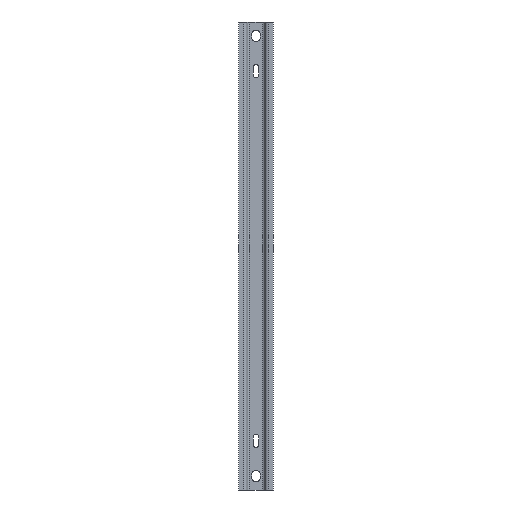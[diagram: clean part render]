
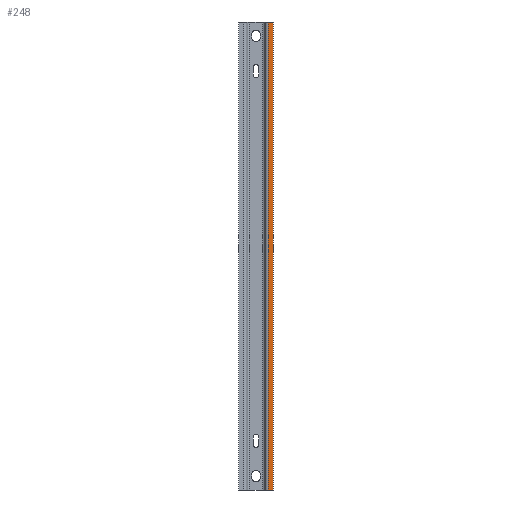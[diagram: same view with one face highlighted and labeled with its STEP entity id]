
A CAD part, front view. The second image highlights one B-rep face of the part: STEP entity #248.
In plain terms, the highlighted planar face has unit normal (0, -1, 0).
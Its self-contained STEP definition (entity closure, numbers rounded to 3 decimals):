
#12 = CARTESIAN_POINT ( 'NONE',  ( 18.114, -11., 0. ) ) ;
#120 = CARTESIAN_POINT ( 'NONE',  ( 18.114, -11., 700. ) ) ;
#198 = EDGE_CURVE ( 'NONE', #937, #1118, #1561, .T. ) ;
#242 = CARTESIAN_POINT ( 'NONE',  ( 16., -11., 700. ) ) ;
#248 = ADVANCED_FACE ( 'NONE', ( #393 ), #856, .F. ) ;
#337 = VERTEX_POINT ( 'NONE', #12 ) ;
#364 = ORIENTED_EDGE ( 'NONE', *, *, #571, .T. ) ;
#368 = VECTOR ( 'NONE', #1169, 1000. ) ;
#393 = FACE_OUTER_BOUND ( 'NONE', #1162, .T. ) ;
#411 = LINE ( 'NONE', #433, #1254 ) ;
#422 = VECTOR ( 'NONE', #531, 1000. ) ;
#433 = CARTESIAN_POINT ( 'NONE',  ( 18.114, -11., 700. ) ) ;
#440 = CARTESIAN_POINT ( 'NONE',  ( 26., -11., 700. ) ) ;
#448 = CARTESIAN_POINT ( 'NONE',  ( 16., -11., 0. ) ) ;
#478 = EDGE_CURVE ( 'NONE', #772, #337, #411, .T. ) ;
#518 = ORIENTED_EDGE ( 'NONE', *, *, #841, .F. ) ;
#531 = DIRECTION ( 'NONE',  ( 1., 0., 0. ) ) ;
#571 = EDGE_CURVE ( 'NONE', #337, #1118, #800, .T. ) ;
#576 = DIRECTION ( 'NONE',  ( 1., 0., 0. ) ) ;
#650 = DIRECTION ( 'NONE',  ( 0., 0., -1. ) ) ;
#701 = ORIENTED_EDGE ( 'NONE', *, *, #478, .T. ) ;
#772 = VERTEX_POINT ( 'NONE', #120 ) ;
#800 = LINE ( 'NONE', #448, #946 ) ;
#822 = CARTESIAN_POINT ( 'NONE',  ( 26., -11., 700. ) ) ;
#841 = EDGE_CURVE ( 'NONE', #772, #937, #1264, .T. ) ;
#856 = PLANE ( 'NONE',  #1426 ) ;
#937 = VERTEX_POINT ( 'NONE', #822 ) ;
#946 = VECTOR ( 'NONE', #576, 1000. ) ;
#963 = CARTESIAN_POINT ( 'NONE',  ( 26., -11., 0. ) ) ;
#965 = DIRECTION ( 'NONE',  ( -1., 0., 0. ) ) ;
#1118 = VERTEX_POINT ( 'NONE', #963 ) ;
#1162 = EDGE_LOOP ( 'NONE', ( #364, #1342, #518, #701 ) ) ;
#1169 = DIRECTION ( 'NONE',  ( 0., 0., -1. ) ) ;
#1254 = VECTOR ( 'NONE', #650, 1000. ) ;
#1264 = LINE ( 'NONE', #1509, #422 ) ;
#1342 = ORIENTED_EDGE ( 'NONE', *, *, #198, .F. ) ;
#1426 = AXIS2_PLACEMENT_3D ( 'NONE', #242, #1575, #965 ) ;
#1509 = CARTESIAN_POINT ( 'NONE',  ( 16., -11., 700. ) ) ;
#1561 = LINE ( 'NONE', #440, #368 ) ;
#1575 = DIRECTION ( 'NONE',  ( 0., 1., 0. ) ) ;
